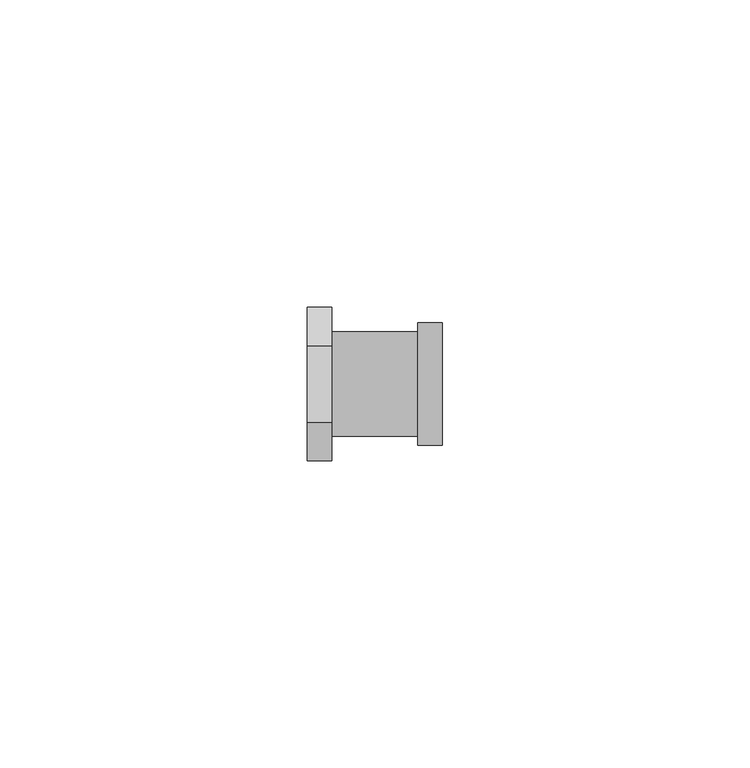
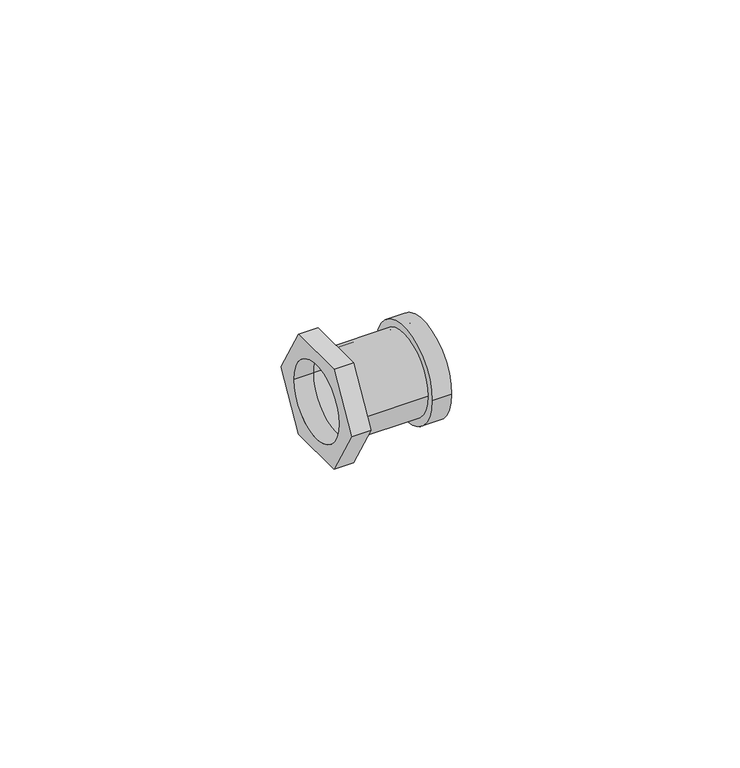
"""IFC4 building model written with IfcOpenShell, lengths in millimetres: pipe fitting geometry, БИР ПЕКС_НПР_Соединитель_Гайка накидная : Соединитель прямой с накидной гайкой."""

from ifc_helpers import new_model, si_unit, point, frame, origin, origin_2d, place, context, project, spatial, polyline, circle_curve, trimmed, segment, composite_curve, outline, extrude, source, transform, mapped, element, save


def pipe_fitting_42ed5a59(model_context):
    return source(origin(), model_context, "Body", "SweptSolid", [
        extrude(outline(polyline([(-6.25, -10.8253175), (-12.5, 0.0), (-6.25, 10.8253175), (6.25, 10.8253175), (12.5, 0.0), (6.25, -10.8253175), (-6.25, -10.8253175)]), holes=[composite_curve([segment(trimmed(circle_curve(origin_2d(), 8.0), [point((-8.0, 0.0))], [point((8.0, 0.0))], True, "CARTESIAN"), True, "CONTINUOUS"), segment(trimmed(circle_curve(origin_2d(), 8.0), [point((8.0, 0.0))], [point((-8.0, 0.0))], True, "CARTESIAN"), True, "CONTINUOUS")], self_intersect=False)]), frame((-11.0, 0.0, 0.0), z_axis=(1.0, 0.0, 0.0), x_axis=(0.0, 1.0, 0.0)), (0.0, 0.0, 1.0), 4.0),
        extrude(outline(composite_curve([segment(trimmed(circle_curve(origin_2d(), 8.5), [point((-8.5, 0.0))], [point((8.5, 0.0))], False, "CARTESIAN"), True, "CONTINUOUS"), segment(trimmed(circle_curve(origin_2d(), 8.5), [point((8.5, 0.0))], [point((-8.5, 0.0))], False, "CARTESIAN"), True, "CONTINUOUS")], self_intersect=False), holes=[composite_curve([segment(trimmed(circle_curve(origin_2d(), 8.0), [point((-8.0, 0.0))], [point((8.0, 0.0))], True, "CARTESIAN"), True, "CONTINUOUS"), segment(trimmed(circle_curve(origin_2d(), 8.0), [point((8.0, 0.0))], [point((-8.0, 0.0))], True, "CARTESIAN"), True, "CONTINUOUS")], self_intersect=False)]), frame((-7.0, 0.0, 0.0), z_axis=(1.0, 0.0, 0.0), x_axis=(0.0, 1.0, 0.0)), (0.0, 0.0, 1.0), 14.0),
        extrude(outline(composite_curve([segment(trimmed(circle_curve(origin_2d(), 10.0), [point((-10.0, 0.0))], [point((10.0, 0.0))], False, "CARTESIAN"), True, "CONTINUOUS"), segment(trimmed(circle_curve(origin_2d(), 10.0), [point((10.0, 0.0))], [point((-10.0, 0.0))], False, "CARTESIAN"), True, "CONTINUOUS")], self_intersect=False), holes=[composite_curve([segment(trimmed(circle_curve(origin_2d(), 8.0), [point((-8.0, 0.0))], [point((8.0, 0.0))], True, "CARTESIAN"), True, "CONTINUOUS"), segment(trimmed(circle_curve(origin_2d(), 8.0), [point((8.0, 0.0))], [point((-8.0, 0.0))], True, "CARTESIAN"), True, "CONTINUOUS")], self_intersect=False)]), frame((7.0, 0.0, 0.0), z_axis=(1.0, 0.0, 0.0), x_axis=(0.0, 1.0, 0.0)), (0.0, 0.0, 1.0), 4.0),
    ])


if __name__ == "__main__":
    model = new_model("IFC4")
    model_context = context("Model", 3, world=origin())
    ifc_project = project(units=[si_unit("LENGTHUNIT", "METRE", prefix="MILLI")], contexts=[model_context])
    site = spatial("IfcSite", under=ifc_project)
    building = spatial("IfcBuilding", under=site)
    placement = place(None, origin())
    pipe_fitting_shape = pipe_fitting_42ed5a59(model_context)
    element("IfcPipeFitting", 1, ObjectType="БИР ПЕКС_НПР_Соединитель_Гайка накидная : Соединитель прямой с накидной гайкой", at=placement, inside=building, context=model_context, shape_type="MappedRepresentation", body=[
        mapped(pipe_fitting_shape, transform((0.0, 0.0, 0.0), x_axis=(1.0, 0.0, 0.0), y_axis=(0.0, 1.0, 0.0), z_axis=(0.0, 0.0, 1.0))),
    ])
    save(model, "model.ifc")
